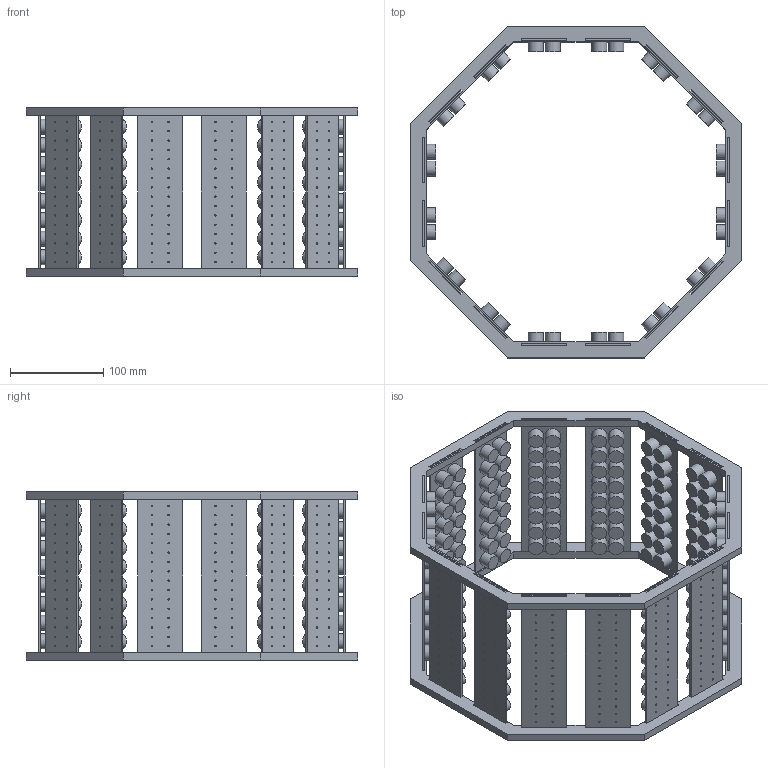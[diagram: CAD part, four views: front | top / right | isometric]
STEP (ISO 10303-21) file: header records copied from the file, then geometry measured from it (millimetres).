
FILE_DESCRIPTION(('Open CASCADE Model'),'2;1');
FILE_NAME('Open CASCADE Shape Model','2026-10-05T12:46:33',('Author'),( 'Open CASCADE'),'Open CASCADE STEP processor 7.9','Open CASCADE 7.9' ,'Unknown');
FILE_SCHEMA(('AUTOMOTIVE_DESIGN { 1 0 10303 214 1 1 1 1 }'));
Length unit declared in the file: millimetre
Products named in the file (28): tunnel_8f_v2; face_1; panel_instance_0; pcb_8f; tx_T1; panel_instance_1; face_2; face_3; face_4; face_5; face_6; face_7; face_8; ring_0
Assembly tree (298 placements, depth 4):
  tunnel_8f_v2
    face_1
      panel_instance_0
        pcb_8f
        tx_T1  x16
      panel_instance_1
        pcb_8f
        tx_T1  x16
    face_2
      panel_instance_0
        pcb_8f
        tx_T1  x16
      panel_instance_1
        pcb_8f
        tx_T1  x16
    face_3
      panel_instance_0
        pcb_8f
        tx_T1  x16
      panel_instance_1
        pcb_8f
        tx_T1  x16
    face_4
      panel_instance_0
        pcb_8f
        tx_T1  x16
      panel_instance_1
        pcb_8f
        tx_T1  x16
    face_5
      panel_instance_0
        pcb_8f
        tx_T1  x16
      panel_instance_1
        pcb_8f
        tx_T1  x16
    face_6
      panel_instance_0
        pcb_8f
        tx_T1  x16
      panel_instance_1
        pcb_8f
        tx_T1  x16
    face_7
      panel_instance_0
        pcb_8f
        tx_T1  x16
      panel_instance_1
        pcb_8f
        tx_T1  x16
    face_8
      panel_instance_0
        pcb_8f
        tx_T1  x16
      panel_instance_1
        pcb_8f
        tx_T1  x16
    ring_0  x2
Bounding box: 355 x 355 x 180 mm (x, y, z)
Volume: 1139301.4 mm3; surface area: 685983.1 mm2
Topology: 274 solids, 274 shells, 1844 faces, 3888 edges, 2592 vertices
Faces by surface type: cylinder 1072, plane 772
Full cylindrical faces by diameter (mm): 0.8 x32, 1 x208, 1.5 x512, 3.2 x64, 16 x256
Entity records: 12937 total; most frequent: CARTESIAN_POINT 2837, DIRECTION 1820, ORIENTED_EDGE 816, PCURVE 816, DEFINITIONAL_REPRESENTATION 816, LINE 728, VECTOR 728, AXIS2_PLACEMENT_3D 545
